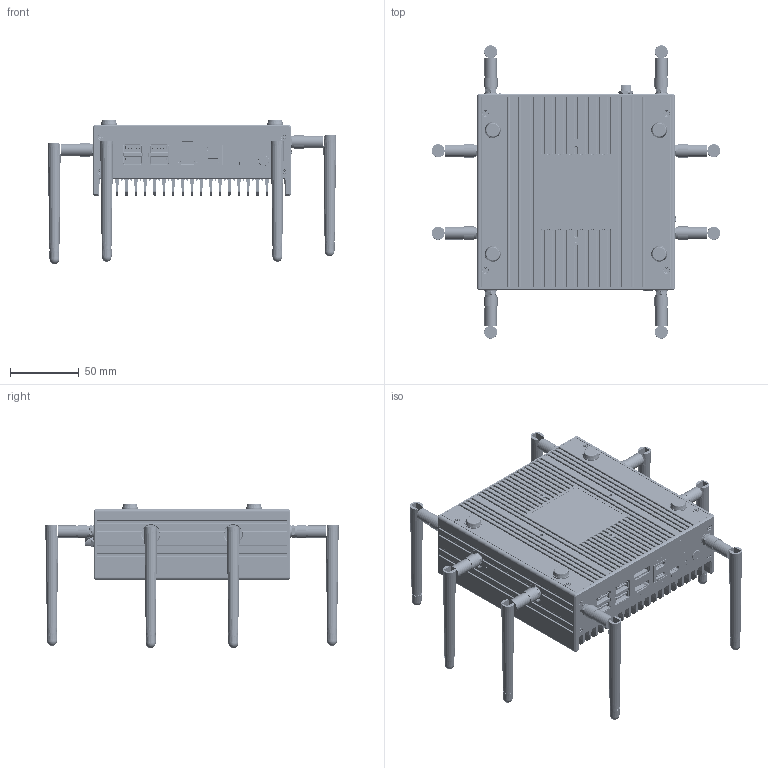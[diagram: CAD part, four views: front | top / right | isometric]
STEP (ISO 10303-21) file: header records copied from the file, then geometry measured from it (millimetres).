
FILE_DESCRIPTION((''),'2;1');
FILE_NAME('N29-2024-8-23_ASM','2025-04-07T',('WL'),(''),'PRO/ENGINEER BY PARAMETRIC TECHNOLOGY CORPORATION, 2010280','PRO/ENGINEER BY PARAMETRIC TECHNOLOGY CORPORATION, 2010280','');
FILE_SCHEMA(('AUTOMOTIVE_DESIGN { 1 0 10303 214 1 1 1 1 }'));
Products named in the file (126): XC-144X51_5MM-2024-8-23; XC-137-4X4-5MM-2024-8-23; QMB-2024-8-23; HMB-2024-8-23; 2024-7-29-019C20_; POWER-2022-7-6_BSY31C16299C20_; MANIFOLD_SOLID_BEP1__C16299C20_; MANIFOLD_SOLID_BEP90C16299C20_; POWER-2022-10-11__31C16299C20__ASM; POWER-2024-7-299C20__ASM; RST-2024-7-299C20_; TYPE-C-2_62B31C16299C20_; TYPE-C-3_62B31C16299C20_; TYPE-C-2024-7-299C20__ASM; TYPE-C-2_62B31_C16299C20_; TYPE-C-3_62B31_C16299C20_; 2XTYPE-C-2024-7-299C20__ASM; HDMI-DP-2023-2-131-1C16299C20_; HDMI-B-2023-2-131-131C16299C20_; DP-01-_A-2023-2-131-1316299C20_; HDMI-DP-2024-7-299C20__ASM; USB-3-0-A_1_1_110112_2B299C20_; USB-3-0-1_1_1_31011262B299C20_; USB20-2024-7-299C20__ASM; DC-L8-5MM-2223; DC-L8-5MM-22223; DC-L8-5MM-2024-8-23_ASM; SIM-2024-7-299C20_; SIM-MINI-2024-8-22_; LED-2022-7-6_BSY_101_62B299C20_; 2022-10-11-15_101_62B299C20_; 2022-10-11-16_101_62B299C20_; LED-2024-7-299C20__ASM; LAN-6-2022-7-7_BSY_4299C20_; 2022-10-12-01_4299C20_; 2022-10-12-02_4299C20_; 2022-10-12-03_4299C20__ASM; LAN-1-2022-10-18_4299C20_; 4LAN-2024-7-299C20__ASM; CPU-N100-2024-7-299C20_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
Assembly tree (185 placements, depth 6):
  N29-2024-8-23_ASM
    XC-144X51_5MM-2024-8-23
    XC-137-4X4-5MM-2024-8-23
    QMB-2024-8-23
    HMB-2024-8-23
    PCB-PR-ALNDZ4L-N100-2024-8-23_ASM
      2024-7-29-019C20_
      POWER-2024-7-299C20__ASM
        POWER-2022-7-6_BSY31C16299C20_
        POWER-2022-10-11__31C16299C20__ASM
          MANIFOLD_SOLID_BEP1__C16299C20_
          MANIFOLD_SOLID_BEP90C16299C20_
      RST-2024-7-299C20_
      TYPE-C-2024-7-299C20__ASM
        TYPE-C-2_62B31C16299C20_
        TYPE-C-3_62B31C16299C20_
      2XTYPE-C-2024-7-299C20__ASM
        TYPE-C-2_62B31_C16299C20_
        TYPE-C-3_62B31_C16299C20_  x2
      HDMI-DP-2024-7-299C20__ASM
        HDMI-DP-2023-2-131-1C16299C20_
        HDMI-B-2023-2-131-131C16299C20_
        DP-01-_A-2023-2-131-1316299C20_
      USB20-2024-7-299C20__ASM  x2
        USB-3-0-A_1_1_110112_2B299C20_
        USB-3-0-1_1_1_31011262B299C20_
      DC-L8-5MM-2024-8-23_ASM
        DC-L8-5MM-2223
        DC-L8-5MM-22223
      SIM-2024-7-299C20_
      SIM-MINI-2024-8-22_
      LED-2024-7-299C20__ASM
        LED-2022-7-6_BSY_101_62B299C20_
        2022-10-11-15_101_62B299C20_
        2022-10-11-16_101_62B299C20_
      4LAN-2024-7-299C20__ASM
        LAN-6-2022-7-7_BSY_4299C20_
        2022-10-12-03_4299C20__ASM  x4
          2022-10-12-01_4299C20_
          2022-10-12-02_4299C20_
        LAN-1-2022-10-18_4299C20_  x4
      CPU-N100-2024-7-299C20_
      DDR5-9MM-2024-7-299C20__ASM
        DDR3-C-_10931C16299C20_
        DDR5-B-_10931C16299C20_
      M-2-2280-2024-7-299C20__ASM
        M_2_KEY-B_H8P5-SOL109316299C20_
        M2-HDD-_10931C16299C20_
      M-2-3052-2024-7-299C20__ASM
        M_2_KEY-B_H8P5-1-L_82C16299C20_
        M2-5G-2023-10-31C16299C20_
        M2-5G-3052-2024-8-89C20__ASM
          M_2_KEY-B_H8P5-1-4_8_62B889C20_
          M2-HDD-98__-_62B889C20_
          M2X4-YT-2024-8-89C20_  x2
      2-54-2024-7-299C20_
      2-0-C-2024-7-299C20_  x2
      SATA-2024-7-299C20__ASM
        SATA-A-_15299C20_
        SATA-B-_15299C20_
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Bounding box: 209.69 x 213.19 x 104.9 mm (x, y, z)
Volume: 598972.5 mm3; surface area: 436246.6 mm2
Topology: 359 solids, 374 shells, 26858 faces, 71538 edges, 46556 vertices
Faces by surface type: plane 18992, cylinder 4469, bspline 1146, cone 966, extrusion 799, torus 312, sphere 174
Entity records: 903299 total; most frequent: CARTESIAN_POINT 172186, ORIENTED_EDGE 110562, DIRECTION 98675, PRESENTATION_STYLE_ASSIGNMENT 59094, EDGE_CURVE 55305, STYLED_ITEM 54620, CURVE_STYLE 53680, VECTOR 45421
